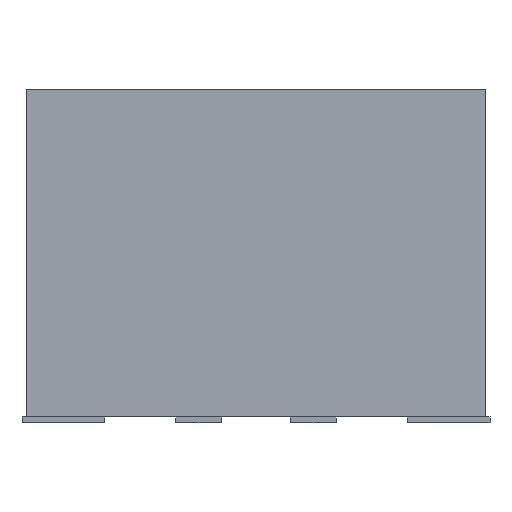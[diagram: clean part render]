
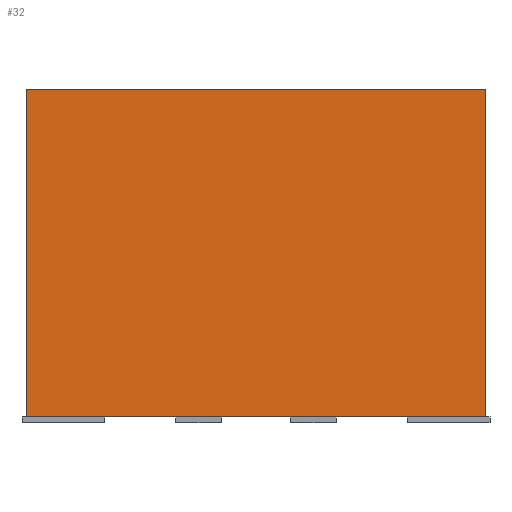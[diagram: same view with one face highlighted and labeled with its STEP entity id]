
A CAD part, front view. The second image highlights one B-rep face of the part: STEP entity #32.
In plain terms, the highlighted planar face has unit normal (0, -1, 0).
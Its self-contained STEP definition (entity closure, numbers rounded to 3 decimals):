
#32 = ADVANCED_FACE('',(#33),#47,.F.);
#33 = FACE_BOUND('',#34,.F.);
#34 = EDGE_LOOP('',(#35,#70,#98,#126));
#35 = ORIENTED_EDGE('',*,*,#36,.T.);
#36 = EDGE_CURVE('',#37,#39,#41,.T.);
#37 = VERTEX_POINT('',#38);
#38 = CARTESIAN_POINT('',(-4.,-4.45,0.));
#39 = VERTEX_POINT('',#40);
#40 = CARTESIAN_POINT('',(-4.,-4.45,5.7));
#41 = SURFACE_CURVE('',#42,(#46,#58),.PCURVE_S1.);
#42 = LINE('',#43,#44);
#43 = CARTESIAN_POINT('',(-4.,-4.45,0.));
#44 = VECTOR('',#45,1.);
#45 = DIRECTION('',(0.,0.,1.));
#46 = PCURVE('',#47,#52);
#47 = PLANE('',#48);
#48 = AXIS2_PLACEMENT_3D('',#49,#50,#51);
#49 = CARTESIAN_POINT('',(-4.,-4.45,0.));
#50 = DIRECTION('',(0.,1.,0.));
#51 = DIRECTION('',(1.,0.,0.));
#52 = DEFINITIONAL_REPRESENTATION('',(#53),#57);
#53 = LINE('',#54,#55);
#54 = CARTESIAN_POINT('',(0.,0.));
#55 = VECTOR('',#56,1.);
#56 = DIRECTION('',(0.,-1.));
#57 = ( GEOMETRIC_REPRESENTATION_CONTEXT(2) 
PARAMETRIC_REPRESENTATION_CONTEXT() REPRESENTATION_CONTEXT('2D SPACE',''
  ) );
#58 = PCURVE('',#59,#64);
#59 = PLANE('',#60);
#60 = AXIS2_PLACEMENT_3D('',#61,#62,#63);
#61 = CARTESIAN_POINT('',(-4.,4.45,0.));
#62 = DIRECTION('',(1.,0.,-0.));
#63 = DIRECTION('',(0.,-1.,0.));
#64 = DEFINITIONAL_REPRESENTATION('',(#65),#69);
#65 = LINE('',#66,#67);
#66 = CARTESIAN_POINT('',(8.9,0.));
#67 = VECTOR('',#68,1.);
#68 = DIRECTION('',(0.,-1.));
#69 = ( GEOMETRIC_REPRESENTATION_CONTEXT(2) 
PARAMETRIC_REPRESENTATION_CONTEXT() REPRESENTATION_CONTEXT('2D SPACE',''
  ) );
#70 = ORIENTED_EDGE('',*,*,#71,.T.);
#71 = EDGE_CURVE('',#39,#72,#74,.T.);
#72 = VERTEX_POINT('',#73);
#73 = CARTESIAN_POINT('',(4.,-4.45,5.7));
#74 = SURFACE_CURVE('',#75,(#79,#86),.PCURVE_S1.);
#75 = LINE('',#76,#77);
#76 = CARTESIAN_POINT('',(-4.,-4.45,5.7));
#77 = VECTOR('',#78,1.);
#78 = DIRECTION('',(1.,0.,0.));
#79 = PCURVE('',#47,#80);
#80 = DEFINITIONAL_REPRESENTATION('',(#81),#85);
#81 = LINE('',#82,#83);
#82 = CARTESIAN_POINT('',(0.,-5.7));
#83 = VECTOR('',#84,1.);
#84 = DIRECTION('',(1.,0.));
#85 = ( GEOMETRIC_REPRESENTATION_CONTEXT(2) 
PARAMETRIC_REPRESENTATION_CONTEXT() REPRESENTATION_CONTEXT('2D SPACE',''
  ) );
#86 = PCURVE('',#87,#92);
#87 = PLANE('',#88);
#88 = AXIS2_PLACEMENT_3D('',#89,#90,#91);
#89 = CARTESIAN_POINT('',(0.,0.,5.7));
#90 = DIRECTION('',(0.,0.,1.));
#91 = DIRECTION('',(0.,1.,0.));
#92 = DEFINITIONAL_REPRESENTATION('',(#93),#97);
#93 = LINE('',#94,#95);
#94 = CARTESIAN_POINT('',(-4.45,4.));
#95 = VECTOR('',#96,1.);
#96 = DIRECTION('',(0.,-1.));
#97 = ( GEOMETRIC_REPRESENTATION_CONTEXT(2) 
PARAMETRIC_REPRESENTATION_CONTEXT() REPRESENTATION_CONTEXT('2D SPACE',''
  ) );
#98 = ORIENTED_EDGE('',*,*,#99,.F.);
#99 = EDGE_CURVE('',#100,#72,#102,.T.);
#100 = VERTEX_POINT('',#101);
#101 = CARTESIAN_POINT('',(4.,-4.45,0.));
#102 = SURFACE_CURVE('',#103,(#107,#114),.PCURVE_S1.);
#103 = LINE('',#104,#105);
#104 = CARTESIAN_POINT('',(4.,-4.45,0.));
#105 = VECTOR('',#106,1.);
#106 = DIRECTION('',(0.,0.,1.));
#107 = PCURVE('',#47,#108);
#108 = DEFINITIONAL_REPRESENTATION('',(#109),#113);
#109 = LINE('',#110,#111);
#110 = CARTESIAN_POINT('',(8.,0.));
#111 = VECTOR('',#112,1.);
#112 = DIRECTION('',(0.,-1.));
#113 = ( GEOMETRIC_REPRESENTATION_CONTEXT(2) 
PARAMETRIC_REPRESENTATION_CONTEXT() REPRESENTATION_CONTEXT('2D SPACE',''
  ) );
#114 = PCURVE('',#115,#120);
#115 = PLANE('',#116);
#116 = AXIS2_PLACEMENT_3D('',#117,#118,#119);
#117 = CARTESIAN_POINT('',(4.,-4.45,0.));
#118 = DIRECTION('',(-1.,0.,0.));
#119 = DIRECTION('',(0.,1.,0.));
#120 = DEFINITIONAL_REPRESENTATION('',(#121),#125);
#121 = LINE('',#122,#123);
#122 = CARTESIAN_POINT('',(0.,0.));
#123 = VECTOR('',#124,1.);
#124 = DIRECTION('',(0.,-1.));
#125 = ( GEOMETRIC_REPRESENTATION_CONTEXT(2) 
PARAMETRIC_REPRESENTATION_CONTEXT() REPRESENTATION_CONTEXT('2D SPACE',''
  ) );
#126 = ORIENTED_EDGE('',*,*,#127,.F.);
#127 = EDGE_CURVE('',#37,#100,#128,.T.);
#128 = SURFACE_CURVE('',#129,(#133,#140),.PCURVE_S1.);
#129 = LINE('',#130,#131);
#130 = CARTESIAN_POINT('',(-4.,-4.45,0.));
#131 = VECTOR('',#132,1.);
#132 = DIRECTION('',(1.,0.,0.));
#133 = PCURVE('',#47,#134);
#134 = DEFINITIONAL_REPRESENTATION('',(#135),#139);
#135 = LINE('',#136,#137);
#136 = CARTESIAN_POINT('',(0.,0.));
#137 = VECTOR('',#138,1.);
#138 = DIRECTION('',(1.,0.));
#139 = ( GEOMETRIC_REPRESENTATION_CONTEXT(2) 
PARAMETRIC_REPRESENTATION_CONTEXT() REPRESENTATION_CONTEXT('2D SPACE',''
  ) );
#140 = PCURVE('',#141,#146);
#141 = PLANE('',#142);
#142 = AXIS2_PLACEMENT_3D('',#143,#144,#145);
#143 = CARTESIAN_POINT('',(0.,0.,0.));
#144 = DIRECTION('',(0.,0.,1.));
#145 = DIRECTION('',(0.,1.,0.));
#146 = DEFINITIONAL_REPRESENTATION('',(#147),#151);
#147 = LINE('',#148,#149);
#148 = CARTESIAN_POINT('',(-4.45,4.));
#149 = VECTOR('',#150,1.);
#150 = DIRECTION('',(0.,-1.));
#151 = ( GEOMETRIC_REPRESENTATION_CONTEXT(2) 
PARAMETRIC_REPRESENTATION_CONTEXT() REPRESENTATION_CONTEXT('2D SPACE',''
  ) );
